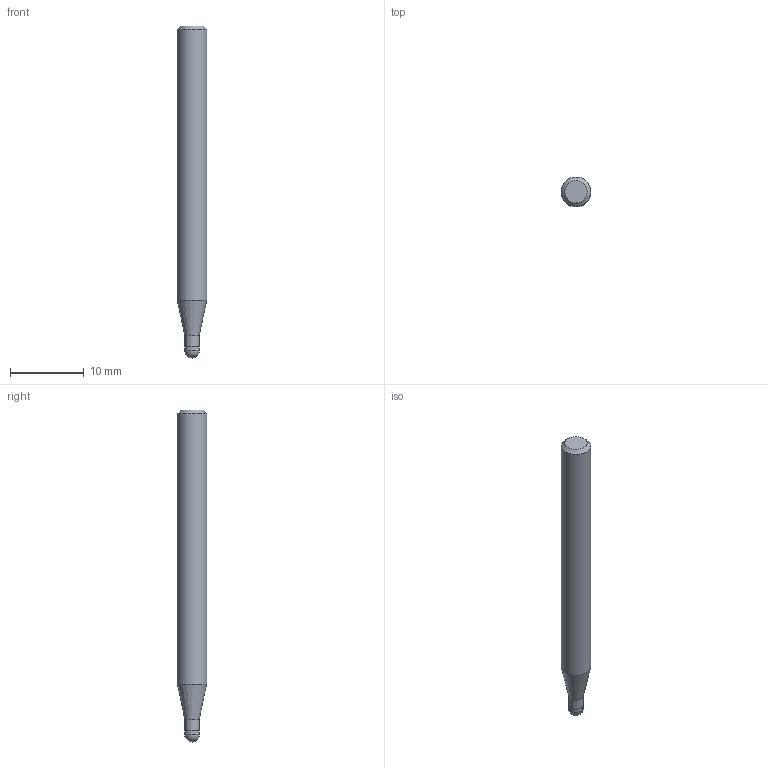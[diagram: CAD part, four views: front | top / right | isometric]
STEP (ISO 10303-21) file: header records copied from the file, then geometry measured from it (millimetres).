
FILE_DESCRIPTION((''),'2;1');
FILE_NAME('C:\Users\nsx150\AppData\Local\Temp\Mastercam 2021\YA1ILF8T9D\TEMP.step','2021-10-01T13:17:54',(''),(''),'STEP Write','Mastercam 2021 ... CNC Software, Inc.','');
FILE_SCHEMA(('AUTOMOTIVE_DESIGN'));
Length unit declared in the file: millimetre
Products named in the file (1): None
Bounding box: 4 x 4 x 45 mm (x, y, z)
Volume: 508.5 mm3; surface area: 546.3 mm2
Topology: 2 solids, 2 shells, 9 faces, 14 edges, 8 vertices
Faces by surface type: plane 3, cylinder 3, cone 2, sphere 1
Full cylindrical faces by diameter (mm): 1.94 x1, 2 x1, 4 x1
Entity records: 211 total; most frequent: DIRECTION 36, CARTESIAN_POINT 25, AXIS2_PLACEMENT_3D 18, ORIENTED_EDGE 14, EDGE_LOOP 14, STYLED_ITEM 12, ADVANCED_FACE 9, FACE_BOUND 8
